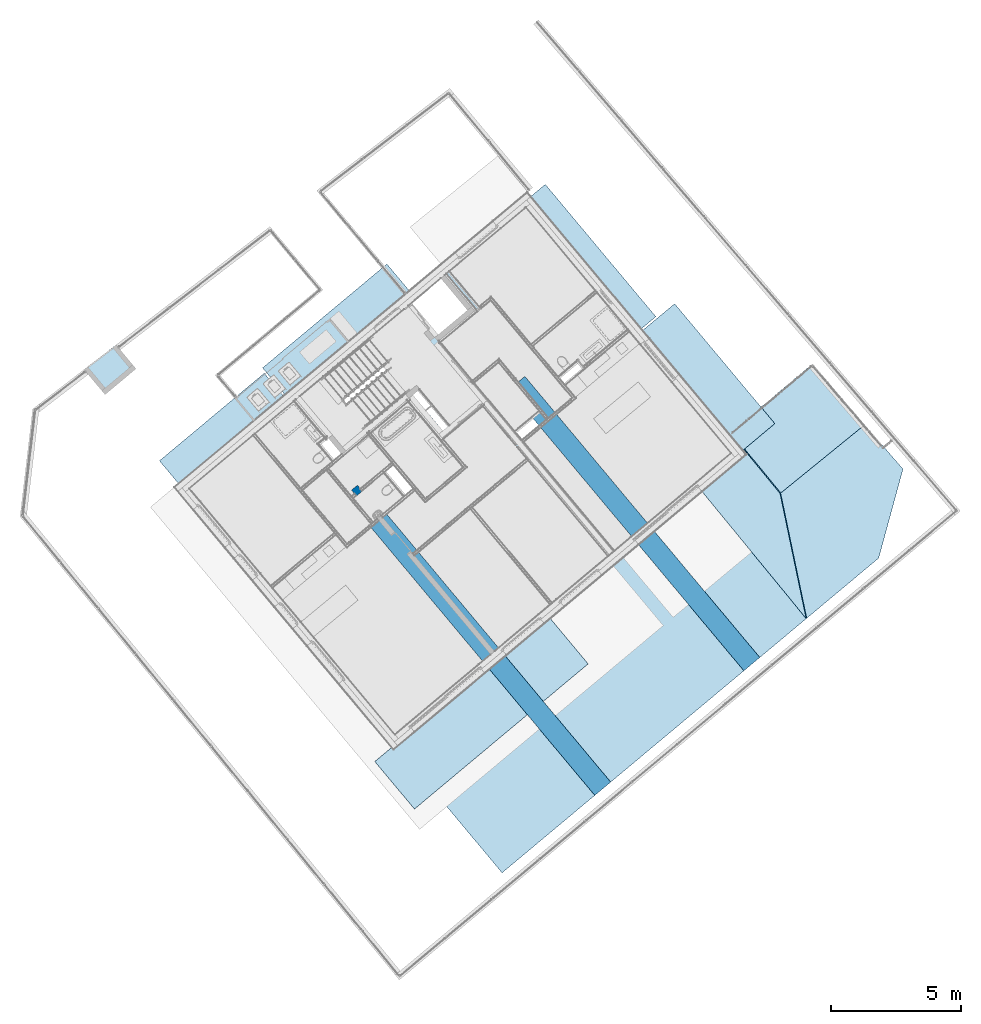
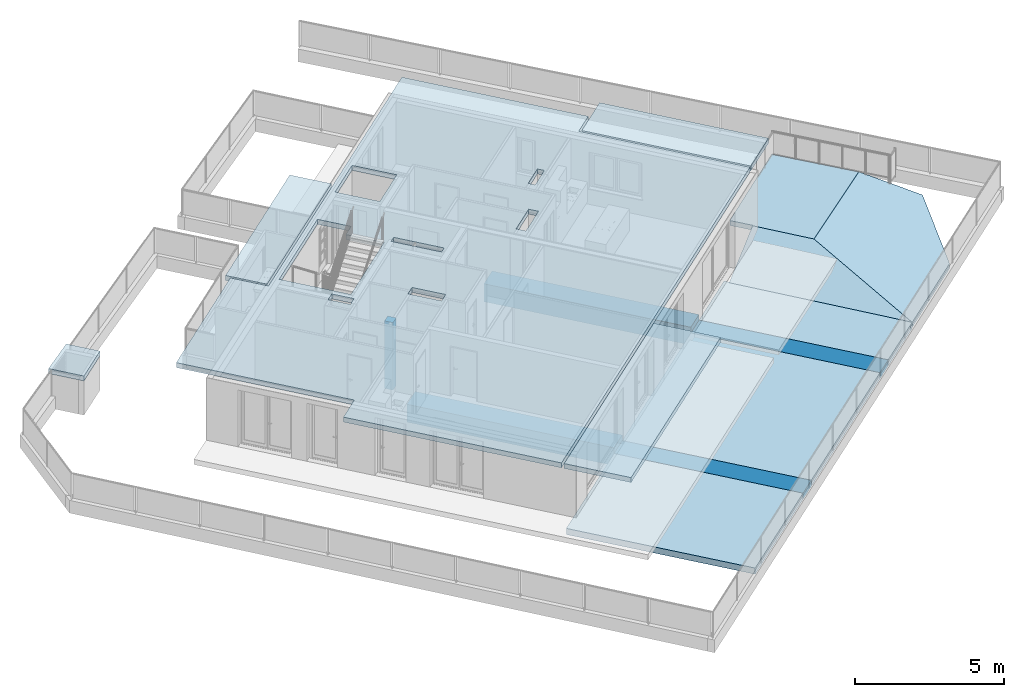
# One storey, part 7 of 67: 9 slabs, 4 beams, 1 column.
"""IFC4 building model written with IfcOpenShell, lengths in metres."""

from ifc_helpers import new_model, entity, si_unit, converted_unit, derived_unit, direction, frame, origin_with_axes, place, context, subcontext, project, spatial, polygons, material, type_object, element, save


model = new_model("IFC4")

# Units and contexts
model_context = context("Model", 3, precision=1e-05, world=origin_with_axes(), true_north=direction((0.0, 1.0)))
body_context = subcontext(model_context, "Body", "Model", "MODEL_VIEW")
ifc_project = project(units=[si_unit("LENGTHUNIT", "METRE"), si_unit("AREAUNIT", "SQUARE_METRE"), si_unit("VOLUMEUNIT", "CUBIC_METRE"), converted_unit("PLANEANGLEUNIT", "DEGREE", entity("IfcPlaneAngleMeasure", 0.0174532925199), si_unit("PLANEANGLEUNIT", "RADIAN"), dimensions=[0, 0, 0, 0, 0, 0, 0]), converted_unit("TIMEUNIT", "Year", entity("IfcTimeMeasure", 31556926.0), si_unit("TIMEUNIT", "SECOND"), dimensions=[0, 0, 1, 0, 0, 0, 0]), si_unit("MASSUNIT", "GRAM", prefix="KILO"), si_unit("THERMODYNAMICTEMPERATUREUNIT", "DEGREE_CELSIUS"), si_unit("LUMINOUSINTENSITYUNIT", "LUMEN"), si_unit("ENERGYUNIT", "JOULE", prefix="MEGA"), derived_unit("THERMALCONDUCTANCEUNIT", [(si_unit("POWERUNIT", "WATT"), 1), (si_unit("LENGTHUNIT", "METRE"), -1), (si_unit("THERMODYNAMICTEMPERATUREUNIT", "KELVIN"), -1)]), derived_unit("SPECIFICHEATCAPACITYUNIT", [(si_unit("ENERGYUNIT", "JOULE"), 1), (si_unit("MASSUNIT", "GRAM", prefix="KILO"), -1), (si_unit("THERMODYNAMICTEMPERATUREUNIT", "KELVIN"), -1)]), derived_unit("MASSDENSITYUNIT", [(si_unit("MASSUNIT", "GRAM", prefix="KILO"), 1), (si_unit("VOLUMEUNIT", "CUBIC_METRE"), -1)])], contexts=[model_context])

# Site, building, storey
site_placement = place(None, frame((-0.00153261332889, -0.00661245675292, 0.0), z_axis=(0.0, 0.0, 1.0), x_axis=(1.0, 0.0, 0.0)))
site = spatial("IfcSite", under=ifc_project, at=site_placement, Name="Site", CompositionType="ELEMENT")
building_placement = place(site_placement, origin_with_axes())
building = spatial("IfcBuilding", under=site, at=building_placement, Name="Building", CompositionType="ELEMENT")
storey_placement = place(building_placement, frame((0.0, 0.0, -0.22), z_axis=(0.0, 0.0, 1.0), x_axis=(1.0, 0.0, 0.0)))
storey = spatial("IfcBuildingStorey", under=building, at=storey_placement, Name="EG", CompositionType="ELEMENT", Elevation=-0.22)

# Column
ifc_material_1 = material(Name="Stahlbeton")
column_type = type_object("IfcColumnType", Name="Stahlbeton 300 x 300", PredefinedType="NOTDEFINED")
column_placement = place(storey_placement, frame((-1.63508592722, 18.8845477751, 0.0), z_axis=(0.0, 0.0, 1.0), x_axis=(0.776862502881, 0.62967027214, 0.0)))
element("IfcColumn", 1, at=column_placement, inside=storey, type_object=column_type, material=ifc_material_1, Name="Stütze-002", PredefinedType="NOTDEFINED", context=body_context, shape_type="Tessellation", body=[
    polygons([(0.15, -0.15, 2.76), (-0.15, -0.15, 2.76), (-0.15, -0.15, 0.0), (0.15, -0.15, 0.0), (0.15, 0.15, 2.76), (-0.15, 0.15, 2.76), (-0.15, 0.15, 0.0), (0.15, 0.15, 0.0)], [[[1, 2, 3, 4]], [[5, 6, 2, 1]], [[2, 6, 7, 3]], [[8, 4, 3, 7]], [[5, 1, 4, 8]], [[6, 5, 8, 7]]], closed=True),
])

# Beams
beam_type_1 = type_object("IfcBeamType", Name="Stahlbeton 800 x 730", PredefinedType="NOTDEFINED")
beam_1_placement = place(storey_placement, frame((9.27298643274, 17.3686850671, -0.2), z_axis=(0.0, 0.0, 1.0), x_axis=(0.767365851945, 0.641209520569, 0.0)))
element("IfcBeam", 2, at=beam_1_placement, inside=storey, type_object=beam_type_1, material=ifc_material_1, Name="Träger-001", PredefinedType="NOTDEFINED", context=body_context, shape_type="Tessellation", body=[
    polygons([(0.4, 0.0, -0.73), (0.4, 7.38630870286, -0.73), (0.4, 7.38630870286, 0.0), (0.4, 0.000254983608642, 0.0), (0.4, 0.000254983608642, -0.22999918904), (0.4, 0.0, -0.22999918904), (-0.4, 7.38630870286, -0.73), (-0.4, 0.0, -0.73), (-0.4, 7.38630870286, 0.0), (-0.4, 0.0, 0.0), (0.00778880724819, 0.0, 0.0), (0.00778880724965, 0.0, -0.22999918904)], [[[1, 2, 3, 4, 5, 6]], [[7, 2, 1, 8]], [[7, 9, 3, 2]], [[3, 9, 10, 11, 4]], [[4, 11, 12, 5]], [[12, 6, 5]], [[8, 1, 6, 12, 11, 10]], [[9, 7, 8, 10]]], closed=True),
])
beam_2_placement = place(storey_placement, frame((3.52459646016, 12.5589493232, -0.2), z_axis=(0.0, 0.0, 1.0), x_axis=(0.767365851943, 0.641209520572, 0.0)))
element("IfcBeam", 3, at=beam_2_placement, inside=storey, type_object=beam_type_1, material=ifc_material_1, Name="Träger-001", PredefinedType="NOTDEFINED", context=body_context, shape_type="Tessellation", body=[
    polygons([(0.4, 0.0, -0.730000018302), (0.4, 7.39121329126, -0.730000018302), (0.4, 7.39121329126, 0.0), (0.4, 0.000286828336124, 0.0), (0.4, 0.000286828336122, -0.22999918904), (0.4, 0.0, -0.22999918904), (-0.4, 7.39121329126, -0.730000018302), (-0.4, 0.0, -0.730000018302), (-0.4, 7.39121329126, 0.0), (-0.4, 0.0, 0.0), (-0.0411941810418, 0.0, 0.0), (-0.041194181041, 0.0, -0.22999918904)], [[[1, 2, 3, 4, 5, 6]], [[7, 2, 1, 8]], [[7, 9, 3, 2]], [[3, 9, 10, 11, 4]], [[4, 11, 12, 5]], [[12, 6, 5]], [[8, 1, 6, 12, 11, 10]], [[9, 7, 8, 10]]], closed=True),
])
beam_type_2 = type_object("IfcBeamType", Name="Stahlbeton 800 x 500", PredefinedType="NOTDEFINED")
beam_3_placement = place(storey_placement, frame((3.52459646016, 12.5589493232, -0.43), z_axis=(0.0, 0.0, 1.0), x_axis=(-0.767310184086, -0.64127613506, 0.0)))
element("IfcBeam", 4, at=beam_3_placement, inside=storey, type_object=beam_type_2, material=ifc_material_1, Name="Träger-001", PredefinedType="NOTDEFINED", context=body_context, shape_type="Tessellation", body=[
    polygons([(0.4, 6.7439623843, 0.0), (0.4, 6.7439623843, -0.25), (-0.4, 6.7439623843, -0.25), (-0.4, 6.7439623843, 0.0), (0.4, 6.49399202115, -0.5), (0.4, 6.49399202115, -0.25), (0.4, 0.0, 0.0), (0.4, 0.0, -0.5), (-0.4, 6.49399035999, -0.25), (-0.4, 6.49399035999, -0.5), (-0.4, 0.0, -0.5), (-0.4, 0.0, 0.0)], [[[1, 2, 3, 4]], [[5, 6, 2, 1, 7, 8]], [[6, 9, 3, 2]], [[3, 9, 10, 11, 12, 4]], [[12, 7, 1, 4]], [[5, 10, 9, 6]], [[7, 12, 11, 8]], [[11, 10, 5, 8]]], closed=True),
])
beam_4_placement = place(storey_placement, frame((9.27298643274, 17.3686850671, -0.43), z_axis=(0.0, 0.0, 1.0), x_axis=(-0.767310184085, -0.641276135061, 0.0)))
element("IfcBeam", 5, at=beam_4_placement, inside=storey, type_object=beam_type_2, material=ifc_material_1, Name="Träger-002", PredefinedType="NOTDEFINED", context=body_context, shape_type="Tessellation", body=[
    polygons([(0.4, 6.74821629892, 0.0), (0.4, 6.74821629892, -0.25), (-0.4, 6.74821629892, -0.25), (-0.4, 6.74821629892, 0.0), (0.4, 6.49823037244, -0.5), (0.4, 6.49823037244, -0.25), (0.4, 0.0, 0.0), (0.4, 0.0, -0.5), (-0.4, 6.49822871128, -0.25), (-0.4, 6.49822871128, -0.5), (-0.4, 0.0, -0.5), (-0.4, 0.0, 0.0)], [[[1, 2, 3, 4]], [[5, 6, 2, 1, 7, 8]], [[6, 9, 3, 2]], [[3, 9, 10, 11, 12, 4]], [[12, 7, 1, 4]], [[5, 10, 9, 6]], [[7, 12, 11, 8]], [[11, 10, 5, 8]]], closed=True),
])

# Slabs
ifc_material_2 = material(Name="Stahlbeton Decke")
slab_type_1 = type_object("IfcSlabType", Name="Stahlbeton Decke 200", PredefinedType="NOTDEFINED")
slab_1_placement = place(storey_placement, frame((-12.0195879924, 23.666422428, 1.6), z_axis=(0.0, 0.0, 1.0), x_axis=(1.0, 0.0, 0.0)))
element("IfcSlab", 6, at=slab_1_placement, inside=storey, type_object=slab_type_1, material=ifc_material_2, Name="Decke-005", PredefinedType="NOTDEFINED", context=body_context, shape_type="Tessellation", body=[
    polygons([(0.0, 0.0, 0.0), (0.0, 0.0, -0.2), (-0.138125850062, -0.115417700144, -0.2), (-0.138125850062, -0.115417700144, 0.0), (1.09431296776, 0.841477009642, 0.0), (1.09431296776, 0.841477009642, -0.2), (1.86540377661, -0.0818256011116, -0.2), (0.669095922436, -1.0814582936, -0.2), (0.669095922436, -1.0814582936, 0.0), (1.86540377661, -0.0818256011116, 0.0)], [[[1, 2, 3, 4]], [[5, 6, 2, 1]], [[3, 2, 6, 7, 8]], [[4, 3, 8, 9]], [[5, 1, 4, 9, 10]], [[10, 7, 6, 5]], [[9, 8, 7, 10]]], closed=True),
])
slab_2_placement = place(storey_placement, frame((-9.25321199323, 20.0359436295, 2.96), z_axis=(0.0, 0.0, 1.0), x_axis=(1.0, 0.0, 0.0)))
element("IfcSlab", 7, at=slab_2_placement, inside=storey, type_object=slab_type_1, material=ifc_material_2, Name="Decke-005", PredefinedType="NOTDEFINED", context=body_context, shape_type="Tessellation", body=[
    polygons([(0.0, 0.0, 0.0), (0.0, 0.0, -0.2), (4.07267164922, -4.87395936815, -0.2), (4.07267164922, -4.87395936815, 0.0), (4.04381976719, 3.37900849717, 0.0), (4.04381976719, 3.37900849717, -0.2), (4.91680107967, 2.33427034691, -0.2), (14.885464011, 10.6640670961, -0.2), (19.1505919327, 5.55982352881, -0.2), (18.4306387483, 4.95823093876, -0.2), (22.3482166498, 0.269879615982, -0.2), (8.2486701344, -11.5272777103, -0.2), (3.25844222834, -5.55522897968, -0.2), (5.42163711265, 2.49501373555, -0.2), (7.06314257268, 0.530546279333, -0.2), (9.53351274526, 2.59478313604, -0.2), (8.66151722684, 3.63824574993, -0.2), (9.05053288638, 3.96327272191, -0.2), (8.28112859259, 4.88415112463, -0.2), (6.51828722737, 0.870689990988, -0.2), (6.24543082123, 0.642691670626, -0.2), (6.75554469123, 0.0322142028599, -0.2), (7.02829317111, 0.260341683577, -0.2), (11.1206759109, 1.31292774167, -0.2), (9.96625314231, 2.69581328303, -0.2), (9.77780938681, 2.53828509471, -0.2), (10.9327816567, 1.15607498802, -0.2), (14.7058636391, 1.85864802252, -0.2), (13.768001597, 1.07497219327, -0.2), (13.9921729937, 0.806436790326, -0.2), (14.930655, 1.58962953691, -0.2), (16.2921456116, 3.55574217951, -0.2), (16.1334349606, 3.74660559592, -0.2), (15.4451269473, 3.17145666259, -0.2), (15.6042936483, 2.98097432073, -0.2), (9.80600446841, -1.06753850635, -0.2), (9.03663065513, -0.146792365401, -0.2), (8.73331585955, -0.400241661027, -0.2), (9.50268967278, -1.32098780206, -0.2), (11.8825374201, 5.80764906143, -0.2), (10.8590745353, 7.03247564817, -0.2), (9.59311855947, 5.97464512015, -0.2), (10.6160002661, 4.74933290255, -0.2), (3.25844222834, -5.55522897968, 0.0), (8.2486701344, -11.5272777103, 0.0), (22.3482166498, 0.269879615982, 0.0), (18.4306387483, 4.95823093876, 0.0), (19.1505919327, 5.55982352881, 0.0), (14.885464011, 10.6640670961, 0.0), (4.91680107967, 2.33427034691, 0.0), (9.53351274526, 2.59478313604, 0.0), (7.06314257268, 0.530546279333, 0.0), (5.42163711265, 2.49501373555, 0.0), (8.28112859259, 4.88415112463, 0.0), (9.05053288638, 3.96327272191, 0.0), (8.66151722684, 3.63824574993, 0.0), (6.75554469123, 0.0322142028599, 0.0), (6.24543082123, 0.642691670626, 0.0), (6.51828722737, 0.870689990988, 0.0), (7.02829317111, 0.260341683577, 0.0), (9.77780938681, 2.53828509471, 0.0), (9.96625314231, 2.69581328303, 0.0), (11.1206759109, 1.31292774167, 0.0), (10.9327816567, 1.15607498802, 0.0), (13.9921729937, 0.806436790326, 0.0), (13.768001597, 1.07497219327, 0.0), (14.7058636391, 1.85864802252, 0.0), (14.930655, 1.58962953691, 0.0), (15.4451269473, 3.17145666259, 0.0), (16.1334349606, 3.74660559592, 0.0), (16.2921456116, 3.55574217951, 0.0), (15.6042936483, 2.98097432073, 0.0), (8.73331585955, -0.400241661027, 0.0), (9.03663065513, -0.146792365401, 0.0), (9.80600446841, -1.06753850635, 0.0), (9.50268967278, -1.32098780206, 0.0), (9.59311855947, 5.97464512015, 0.0), (10.8590745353, 7.03247564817, 0.0), (11.8825374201, 5.80764906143, 0.0), (10.6160002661, 4.74933290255, 0.0)], [[[1, 2, 3, 4]], [[5, 6, 2, 1]], [[3, 2, 6, 7, 8, 9, 10, 11, 12, 13], [14, 15, 16, 17, 18, 19], [20, 21, 22, 23], [24, 25, 26, 27], [28, 29, 30, 31], [32, 33, 34, 35], [36, 37, 38, 39], [40, 41, 42, 43]], [[4, 3, 13, 44]], [[5, 1, 4, 44, 45, 46, 47, 48, 49, 50], [51, 52, 53, 54, 55, 56], [57, 58, 59, 60], [61, 62, 63, 64], [65, 66, 67, 68], [69, 70, 71, 72], [73, 74, 75, 76], [77, 78, 79, 80]], [[50, 7, 6, 5]], [[49, 8, 7, 50]], [[48, 9, 8, 49]], [[47, 10, 9, 48]], [[46, 11, 10, 47]], [[45, 12, 11, 46]], [[44, 13, 12, 45]], [[52, 15, 14, 53]], [[51, 16, 15, 52]], [[56, 17, 16, 51]], [[55, 18, 17, 56]], [[54, 19, 18, 55]], [[53, 14, 19, 54]], [[58, 21, 20, 59]], [[57, 22, 21, 58]], [[60, 23, 22, 57]], [[59, 20, 23, 60]], [[62, 25, 24, 63]], [[61, 26, 25, 62]], [[64, 27, 26, 61]], [[63, 24, 27, 64]], [[66, 29, 28, 67]], [[65, 30, 29, 66]], [[68, 31, 30, 65]], [[67, 28, 31, 68]], [[70, 33, 32, 71]], [[69, 34, 33, 70]], [[72, 35, 34, 69]], [[71, 32, 35, 72]], [[74, 37, 36, 75]], [[73, 38, 37, 74]], [[76, 39, 38, 73]], [[75, 36, 39, 76]], [[78, 41, 40, 79]], [[77, 42, 41, 78]], [[80, 43, 42, 77]], [[79, 40, 43, 80]]], closed=True),
])
slab_3_placement = place(storey_placement, frame((-5.27624485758, 23.6197220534, 2.96), z_axis=(0.0, 0.0, 1.0), x_axis=(1.0, 0.0, 0.0)))
element("IfcSlab", 8, at=slab_3_placement, inside=storey, type_object=slab_type_1, material=ifc_material_2, Name="Decke-005", PredefinedType="NOTDEFINED", context=body_context, shape_type="Tessellation", body=[
    polygons([(0.0, 0.0, 0.0), (0.0, 0.0, -0.2), (0.949926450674, -1.13682204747, -0.2), (0.949926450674, -1.13682204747, 0.0), (4.79829035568, 4.00788462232, 0.0), (4.79829035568, 4.00788462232, -0.2), (5.74745013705, 2.87198008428, -0.2), (5.74745013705, 2.87198008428, 0.0)], [[[1, 2, 3, 4]], [[5, 6, 2, 1]], [[3, 2, 6, 7]], [[4, 3, 7, 8]], [[5, 1, 4, 8]], [[8, 7, 6, 5]]], closed=True),
])
slab_4_placement = place(storey_placement, frame((-0.94615598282, 8.43364053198, 2.96), z_axis=(0.0, 0.0, 1.0), x_axis=(1.0, 0.0, 0.0)))
element("IfcSlab", 9, at=slab_4_placement, inside=storey, type_object=slab_type_1, material=ifc_material_2, Name="Decke-005", PredefinedType="NOTDEFINED", context=body_context, shape_type="Tessellation", body=[
    polygons([(0.0, 0.0, 0.0), (0.0, 0.0, -0.2), (1.5312027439, -1.83370925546, -0.2), (1.5312027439, -1.83370925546, 0.0), (6.70005772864, 5.60281895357, 0.0), (6.70005772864, 5.60281895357, -0.2), (8.2319308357, 3.76678408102, -0.2), (8.2319308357, 3.76678408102, 0.0)], [[[1, 2, 3, 4]], [[5, 6, 2, 1]], [[3, 2, 6, 7]], [[4, 3, 7, 8]], [[5, 1, 4, 8]], [[8, 7, 6, 5]]], closed=True),
])
slab_5_placement = place(storey_placement, frame((13.1563939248, 20.357120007, 2.96), z_axis=(0.0, 0.0, 1.0), x_axis=(1.0, 0.0, 0.0)))
element("IfcSlab", 10, at=slab_5_placement, inside=storey, type_object=slab_type_1, material=ifc_material_2, Name="Decke-005", PredefinedType="NOTDEFINED", context=body_context, shape_type="Tessellation", body=[
    polygons([(0.0, 0.0, 0.0), (0.0, 0.0, -0.2), (1.33147157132, 1.11257523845, -0.2), (1.33147157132, 1.11257523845, 0.0), (-3.86628113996, 4.62696205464, 0.0), (-3.86628113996, 4.62696205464, -0.2), (-2.53479063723, 5.73955311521, -0.2), (-2.53479063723, 5.73955311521, 0.0)], [[[1, 2, 3, 4]], [[5, 6, 2, 1]], [[3, 2, 6, 7]], [[4, 3, 7, 8]], [[5, 1, 4, 8]], [[8, 7, 6, 5]]], closed=True),
])
ifc_material_3 = material(Name="Stahlbeton Decke Garage")
slab_type_2 = type_object("IfcSlabType", Name="Stahlbeton Decke Garage 200", PredefinedType="NOTDEFINED")
slab_6_placement = place(storey_placement, frame((15.9414206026, 23.7793304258, 0.2), z_axis=(0.0, 0.0, 1.0), x_axis=(-0.764793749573, -0.644275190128, 0.0)))
element("IfcSlab", 11, at=slab_6_placement, inside=storey, type_object=slab_type_2, material=ifc_material_3, Name="Dach-001", PredefinedType="NOTDEFINED", context=body_context, shape_type="Tessellation", body=[
    polygons([(-4.86112945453e-08, 2.05929495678e-09, 0.2), (4.12860034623, 1.82519066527e-09, 0.2), (4.1286003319, 0.823592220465, 0.2), (4.1553898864, 0.823502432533, 0.2), (4.18309645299, 3.02250345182, 0.2), (-0.0247454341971, 3.09726175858, 0.2), (4.12860034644, 1.47148249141e-09, -1.86264337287e-10), (-4.88661697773e-08, 2.32665975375e-09, -1.86264337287e-10), (4.12860033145, 0.823592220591, 0.0480745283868), (4.1286003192, 1.49642999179, -1.86264337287e-10), (4.14783615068, 3.0231299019, -1.86264337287e-10), (-0.024745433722, 3.09726175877, -1.86264337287e-10)], [[[1, 2, 3, 4, 5, 6]], [[7, 2, 1, 8]], [[9, 3, 2, 7, 10]], [[9, 4, 3]], [[11, 5, 4, 9, 10]], [[12, 6, 5, 11]], [[8, 1, 6, 12]], [[11, 10, 7, 8, 12]]], closed=True),
])
slab_7_placement = place(storey_placement, frame((13.3145128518, 20.4894975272, 0.196914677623), z_axis=(0.0, 0.0, 1.0), x_axis=(0.63458871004, -0.772850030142, 0.0)))
element("IfcSlab", 12, at=slab_7_placement, inside=storey, type_object=slab_type_2, material=ifc_material_3, Name="Dach-001", PredefinedType="NOTDEFINED", context=body_context, shape_type="Tessellation", body=[
    polygons([(2.19444917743, -0.0267885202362, 0.00308532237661), (0.295632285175, 0.00372487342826, 0.00308532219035), (0.672225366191, 0.0084698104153, 0.00308532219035), (2.17953045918, 0.00847681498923, 0.00308532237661), (2.19954904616, -0.00245775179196, 0.00308532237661), (2.19942336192, -0.0267885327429, 0.00308532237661), (2.19444917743, -0.0267885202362, -0.00975022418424), (0.000554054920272, 0.0084666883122, 0.00308532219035), (0.000480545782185, 6.06760331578e-06, 0.0510817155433), (0.296006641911, 0.00372958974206, 0.0299584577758), (0.000623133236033, 7.86452100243e-06, 0.00308532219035), (2.1994233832, -0.0267885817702, 0.203085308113), (2.19955144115, -0.00199411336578, -0.000725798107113), (6.57144970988, -2.31334849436, -0.629154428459), (6.57182955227, -2.28868569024, -0.833013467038), (2.19942336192, -0.0267885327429, -0.0097502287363), (6.57144970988, -2.31334849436, -0.841989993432), (0.000247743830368, -0.0267885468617, 0.203085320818), (0.0216474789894, -2.27230535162, -0.827051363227), (0.02105233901, -2.27230162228, -0.626914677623), (0.0213375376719, -2.30719480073, -0.626914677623), (5.5894226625, -2.30719480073, -0.626914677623), (6.57287326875, -2.40887025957, -0.87675707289), (6.57227630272, -2.40886647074, -0.87675569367), (6.57286829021, -2.47727433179, -0.688818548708)], [[[1, 2, 3, 4, 5, 6]], [[7, 8, 2, 1]], [[9, 10, 3, 2, 11]], [[4, 3, 10, 12]], [[13, 5, 4, 12, 14, 15]], [[13, 16, 6, 5]], [[7, 1, 6, 16]], [[8, 7, 17]], [[11, 2, 8]], [[12, 10, 9, 18]], [[9, 11, 8, 19, 20, 21, 18]], [[22, 14, 12, 18, 21]], [[15, 14, 23]], [[17, 7, 16, 13, 15, 23, 24]], [[19, 8, 17]], [[22, 20, 19, 17, 14]], [[20, 22, 21]], [[25, 23, 14]], [[23, 25, 24]], [[25, 14, 17, 24]]], closed=True),
])
slab_8_placement = place(storey_placement, frame((14.7286768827, 18.8107990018, 0.196914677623), z_axis=(0.0, 0.0, 1.0), x_axis=(0.776862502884, 0.629670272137, 0.0)))
element("IfcSlab", 13, at=slab_8_placement, inside=storey, type_object=slab_type_2, material=ifc_material_3, Name="Dach-001", PredefinedType="NOTDEFINED", context=body_context, shape_type="Tessellation", body=[
    polygons([(4.22278656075, -2.25729859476, -0.226996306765), (4.15409130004, -1.44520999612e-08, 0.203606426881), (-0.0544116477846, -0.0049740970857, 0.202657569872), (-0.0564074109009, -0.00858539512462, 0.201968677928), (-2.31317416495, -4.39142628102, -0.634102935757), (1.33197501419, -4.3366299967, -0.623649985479), (4.22278656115, -2.25729859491, -0.430602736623), (4.15409130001, -1.40694904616e-08, -2.87352114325e-09), (-0.0284561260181, -0.00494342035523, -0.000943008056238), (-0.0544116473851, -0.00497409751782, 0.201593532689), (-2.28689475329, -4.39103123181, -0.837634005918), (1.33197501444, -4.33662999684, -0.827256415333)], [[[1, 2, 3, 4, 5, 6]], [[2, 1, 7, 8]], [[3, 2, 8, 9, 10]], [[4, 3, 10]], [[5, 4, 10, 9, 11]], [[6, 5, 11, 12]], [[1, 6, 12, 7]], [[8, 7, 12, 11, 9]]], closed=True),
])
slab_type_3 = type_object("IfcSlabType", Name="Stahlbeton Decke Garage 250", PredefinedType="NOTDEFINED")
slab_9_placement = place(storey_placement, frame((11.4457443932, 19.1866532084, -0.68), z_axis=(0.0, 0.0, 1.0), x_axis=(0.62973342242, -0.77681131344, 0.0)))
element("IfcSlab", 14, at=slab_9_placement, inside=storey, type_object=slab_type_3, material=ifc_material_3, Name="Dach-001", PredefinedType="NOTDEFINED", context=body_context, shape_type="Tessellation", body=[
    polygons([(6.97867371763, -15.2869510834, 0.0), (6.75200344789, -0.0955109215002, 0.0), (6.75200344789, -0.0955109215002, 0.000158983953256), (6.75057833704, 0.0, 0.0349246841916), (6.75057833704, 0.0, 0.25), (6.97867371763, -15.2869510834, 0.25), (0.20064726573, 0.0, 0.0), (0.202121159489, -0.0949784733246, 0.0), (0.238793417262, -15.3871360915, 0.0), (0.0, 0.0, 0.0), (0.202121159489, -0.0949784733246, 0.0152911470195), (0.200647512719, 0.0, 0.0498633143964), (0.0, 0.0, 0.25), (0.238793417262, -15.3871360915, 0.25)], [[[1, 2, 3, 4, 5, 6]], [[7, 8, 2, 1, 9, 10]], [[11, 3, 2, 8]], [[11, 12, 4, 3]], [[4, 12, 7, 10, 13, 5]], [[6, 5, 13, 14]], [[6, 14, 9, 1]], [[8, 7, 12, 11]], [[14, 13, 10, 9]]], closed=True),
])

save(model, "model.ifc")
